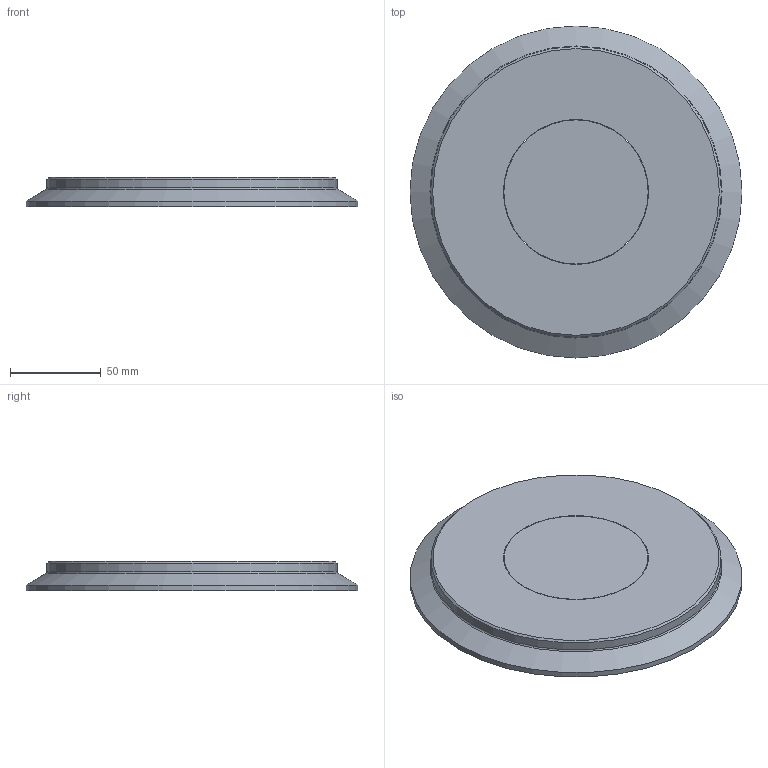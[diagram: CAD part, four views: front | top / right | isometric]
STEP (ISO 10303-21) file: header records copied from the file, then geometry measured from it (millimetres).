
FILE_DESCRIPTION(/* description */ ('ACI Typ 328 DN 150 PN 6'),/* implementation_level */ '2;1');
FILE_NAME(/* name */ 'C:\Users\willms\Desktop\ACI-328-150-6.stp',/* time_stamp */ '2020-09-01T16:24:39+02:00',/* author */ ('götz'),/* organization */ ('ACI Industriearmaturen GmbH info@aci24.com www.aci24.com'),/* preprocessor_version */ 'ST-DEVELOPER v16.1',/* originating_system */ 'Autodesk Inventor 2016',/* authorisation */ 'ACI Industriearmaturen GmbH info@aci24.com www.aci24.com');
FILE_SCHEMA (('CONFIG_CONTROL_DESIGN'));
Length unit declared in the file: centimetre
Products named in the file (1): ACI-328-150-6
Bounding box: 183 x 183 x 16 mm (x, y, z)
Volume: 358241.3 mm3; surface area: 66412.5 mm2
Topology: 2 solids, 2 shells, 15 faces, 23 edges, 14 vertices
Faces by surface type: plane 6, cylinder 4, cone 4, torus 1
Full cylindrical faces by diameter (mm): 79.5 x1, 80 x1, 160 x1, 183 x1
Entity records: 350 total; most frequent: DIRECTION 60, CARTESIAN_POINT 44, AXIS2_PLACEMENT_3D 30, EDGE_LOOP 28, ORIENTED_EDGE 28, STYLED_ITEM 17, FACE_OUTER_BOUND 15, ADVANCED_FACE 15
